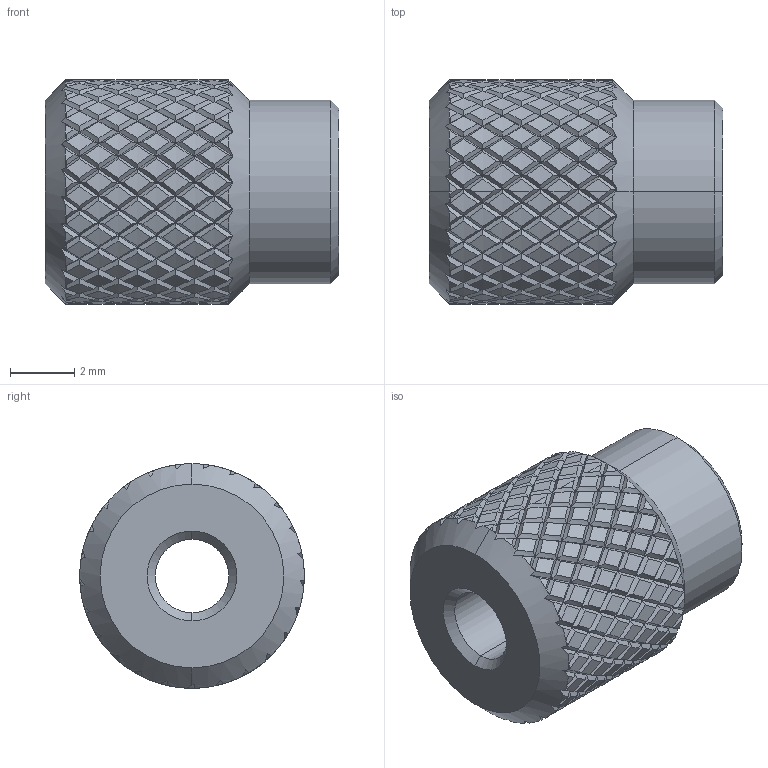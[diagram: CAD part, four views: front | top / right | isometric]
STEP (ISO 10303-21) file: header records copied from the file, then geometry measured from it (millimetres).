
FILE_DESCRIPTION (( 'STEP AP214' ), '1' );
FILE_NAME ('KBM3-25.STEP', '2013-08-21T15:05:39', ( 'workpc' ), ( 'Microsoft' ), 'SwSTEP 2.0', 'SolidWorks 2013', '' );
FILE_SCHEMA (( 'AUTOMOTIVE_DESIGN' ));
Length unit declared in the file: inch
Products named in the file (1): KBM3-25
Bounding box: 9.14 x 6.99 x 6.99 mm (x, y, z)
Volume: 249.1 mm3; surface area: 344.5 mm2
Topology: 1 solids, 1 shells, 1174 faces, 2504 edges, 1333 vertices
Faces by surface type: bspline 900, cylinder 236, plane 28, cone 10
Entity records: 49424 total; most frequent: CARTESIAN_POINT 34880, ORIENTED_EDGE 5008, EDGE_CURVE 2504, VERTEX_POINT 1333, EDGE_LOOP 1177, FACE_OUTER_BOUND 1174, ADVANCED_FACE 1174, DIRECTION 765
